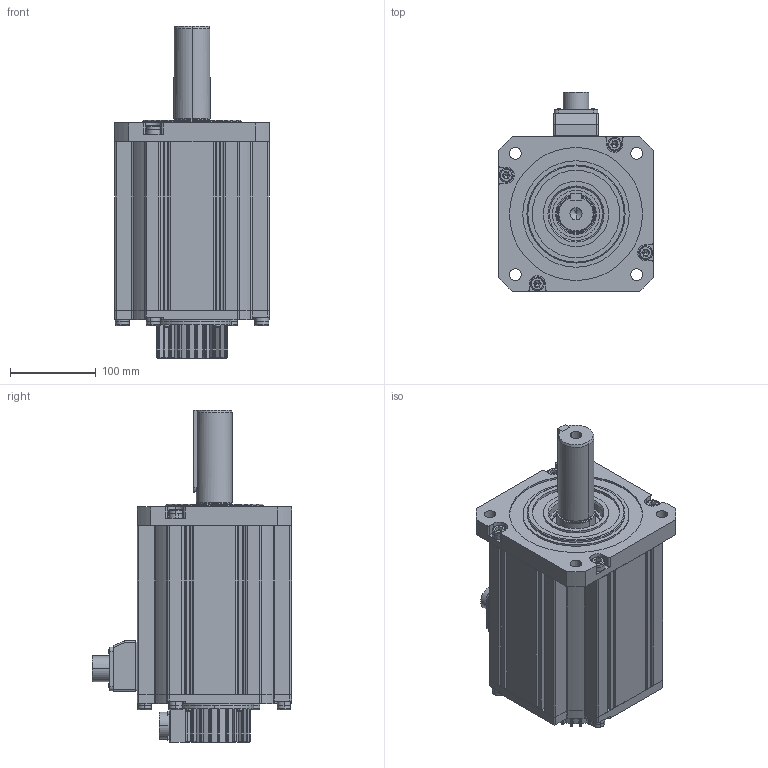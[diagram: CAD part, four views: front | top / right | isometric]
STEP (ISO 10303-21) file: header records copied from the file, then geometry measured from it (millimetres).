
FILE_DESCRIPTION (( 'STEP AP203' ), '1' );
FILE_NAME ('R180-5500W.STEP', '2018-09-11T10:55:12', ( '1' ), ( 'MideaGroup IT' ), 'SwSTEP 2.0', 'SolidWorks 2012', '' );
FILE_SCHEMA (( 'CONFIG_CONTROL_DESIGN' ));
Products named in the file (21): R180-5500W; M2.6X7_GB_CROSS_SCREWS_TYPE3 M2.5X6-6-N; M3X10_GB_FASTENER_SCREWS_HSHCS M3X10-C; GB_HEXAGON_TYPE21 M10X16-16-N_GB_HEXAGON_TYPE21 M10X16-16-N; す瑩-12X8X96; hexagon socket head cap screws gb_GB_FASTENER_SCREWS_HSHCS M10X30-N; 130-綴裔; 綴裔躇猾菜; 晤鎢ん瑤脣; 侜督萇儂窒璃; 蛌赽軞傖; 綴傷裔-008; deep groove ball bearings gb_Rolling bearings 6209 GB 276-94; 蛌赽郪璃; 180-粣; 180-ヶ傷裔; 隅赽軞傖; 萇埭盄瑤脣; 180-瑤脣; 瑤脣釱躇猾菜; 180-儂褲
Assembly tree (44 placements, depth 5):
  R180-5500W
    侜督萇儂窒璃
      隅赽軞傖
        180-儂褲
        瑤脣釱躇猾菜
        180-瑤脣
        萇埭盄瑤脣
      180-ヶ傷裔
      蛌赽軞傖
        蛌赽郪璃
          180-粣
        deep groove ball bearings gb_Rolling bearings 6209 GB 276-94
        綴傷裔-008
    晤鎢ん瑤脣
    綴裔躇猾菜
    130-綴裔
    hexagon socket head cap screws gb_GB_FASTENER_SCREWS_HSHCS M10X30-N  x8
    す瑩-12X8X96
    GB_HEXAGON_TYPE21 M10X16-16-N_GB_HEXAGON_TYPE21 M10X16-16-N  x8
    M3X10_GB_FASTENER_SCREWS_HSHCS M3X10-C  x4
    M2.6X7_GB_CROSS_SCREWS_TYPE3 M2.5X6-6-N  x8
Bounding box: 180 x 232 x 387 mm (x, y, z)
Volume: 6444603.3 mm3; surface area: 672186.4 mm2
Topology: 41 solids, 41 shells, 2210 faces, 5866 edges, 3756 vertices
Faces by surface type: plane 902, cylinder 796, bspline 155, sphere 138, torus 128, cone 91
Entity records: 64791 total; most frequent: CARTESIAN_POINT 19835, ORIENTED_EDGE 8864, DIRECTION 8724, EDGE_CURVE 4432, AXIS2_PLACEMENT_3D 3286, VERTEX_POINT 2883, VECTOR 2152, LINE 2152
